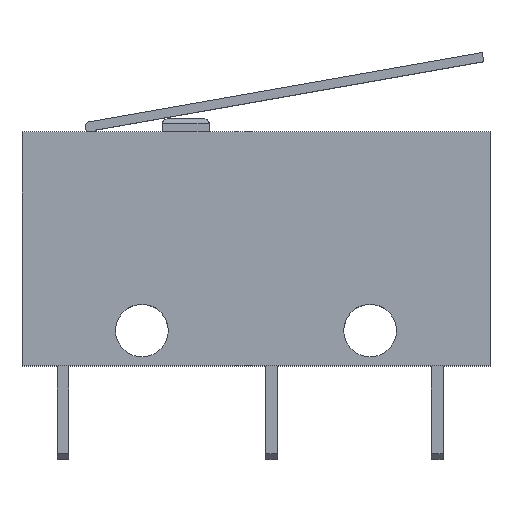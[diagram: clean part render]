
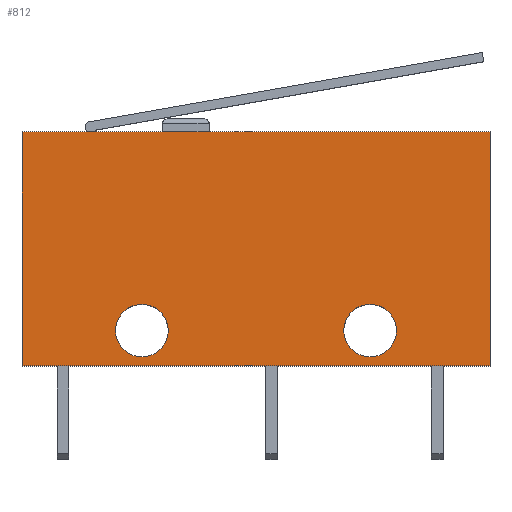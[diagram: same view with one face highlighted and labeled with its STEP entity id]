
A CAD part, top view. The second image highlights one B-rep face of the part: STEP entity #812.
In plain terms, the highlighted planar face has unit normal (0, 0, 1).
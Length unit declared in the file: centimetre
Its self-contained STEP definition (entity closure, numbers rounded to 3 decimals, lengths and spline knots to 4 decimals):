
#251=VERTEX_POINT('',#3443);
#253=VERTEX_POINT('',#3448);
#254=VERTEX_POINT('',#3451);
#255=VERTEX_POINT('',#3452);
#256=VERTEX_POINT('',#3454);
#257=VERTEX_POINT('',#3456);
#346=EDGE_CURVE('',#251,#251,#881,.T.);
#348=EDGE_CURVE('',#253,#253,#883,.T.);
#349=EDGE_CURVE('',#254,#255,#1637,.T.);
#350=EDGE_CURVE('',#256,#254,#1638,.T.);
#351=EDGE_CURVE('',#257,#256,#1639,.T.);
#352=EDGE_CURVE('',#255,#257,#1640,.T.);
#499=ORIENTED_EDGE('',*,*,#349,.F.);
#500=ORIENTED_EDGE('',*,*,#350,.F.);
#501=ORIENTED_EDGE('',*,*,#351,.F.);
#502=ORIENTED_EDGE('',*,*,#352,.F.);
#503=ORIENTED_EDGE('',*,*,#348,.T.);
#504=ORIENTED_EDGE('',*,*,#346,.T.);
#676=EDGE_LOOP('',(#499,#500,#501,#502));
#677=EDGE_LOOP('',(#503));
#678=EDGE_LOOP('',(#504));
#745=FACE_BOUND('',#676,.T.);
#746=FACE_BOUND('',#677,.T.);
#747=FACE_BOUND('',#678,.T.);
#812=ADVANCED_FACE('',(#745,#746,#747),#2636,.T.);
#881=CIRCLE('',#2347,0.1125);
#883=CIRCLE('',#2350,0.1125);
#1637=LINE('',#3450,#2546);
#1638=LINE('',#3453,#2547);
#1639=LINE('',#3455,#2548);
#1640=LINE('',#3457,#2549);
#2347=AXIS2_PLACEMENT_3D('',#3442,#2973,#2974);
#2350=AXIS2_PLACEMENT_3D('',#3447,#2979,#2980);
#2351=AXIS2_PLACEMENT_3D('',#3449,#2981,$);
#2546=VECTOR('',#2982,1.);
#2547=VECTOR('',#2983,1.);
#2548=VECTOR('',#2984,1.);
#2549=VECTOR('',#2985,1.);
#2636=PLANE('',#2351);
#2973=DIRECTION('',(0.,0.,-1.));
#2974=DIRECTION('',(0.113,0.,0.));
#2979=DIRECTION('',(0.,0.,-1.));
#2980=DIRECTION('',(0.113,0.,0.));
#2981=DIRECTION('',(0.,0.,1.));
#2982=DIRECTION('',(-1.,0.,0.));
#2983=DIRECTION('',(0.,-1.,0.));
#2984=DIRECTION('',(1.,0.,0.));
#2985=DIRECTION('',(0.,1.,0.));
#3442=CARTESIAN_POINT('',(-1.4875,0.15,0.66));
#3443=CARTESIAN_POINT('',(-1.6,0.15,0.66));
#3447=CARTESIAN_POINT('',(-0.5125,0.15,0.66));
#3448=CARTESIAN_POINT('',(-0.625,0.15,0.66));
#3449=CARTESIAN_POINT('',(-1.,0.5,0.66));
#3450=CARTESIAN_POINT('',(-2.,0.,0.66));
#3451=CARTESIAN_POINT('',(0.,0.,0.66));
#3452=CARTESIAN_POINT('',(-2.,0.,0.66));
#3453=CARTESIAN_POINT('',(0.,0.,0.66));
#3454=CARTESIAN_POINT('',(0.,1.,0.66));
#3455=CARTESIAN_POINT('',(0.,1.,0.66));
#3456=CARTESIAN_POINT('',(-2.,1.,0.66));
#3457=CARTESIAN_POINT('',(-2.,1.,0.66));
